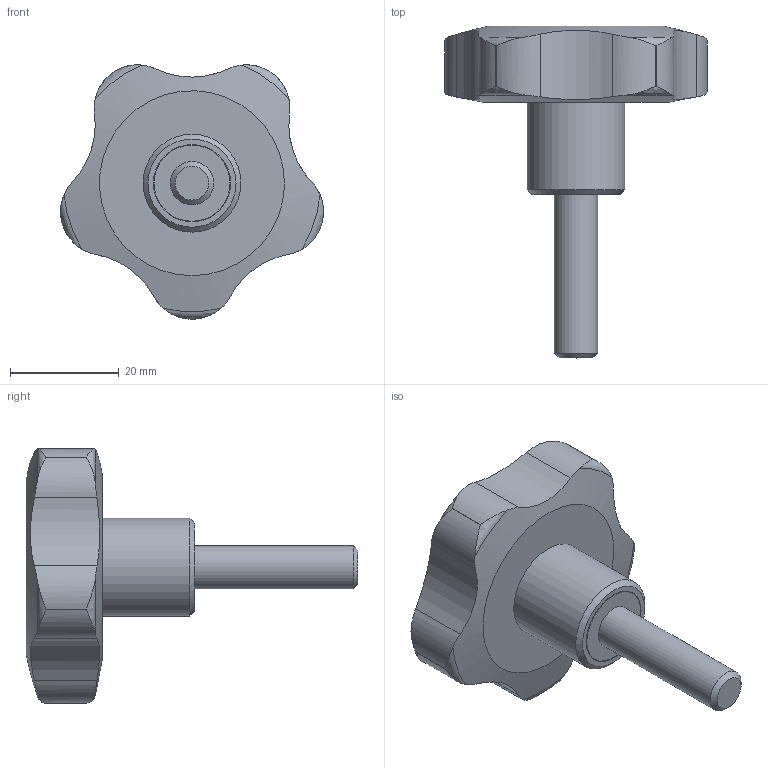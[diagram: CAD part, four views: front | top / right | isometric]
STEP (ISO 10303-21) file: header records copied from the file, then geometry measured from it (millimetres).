
FILE_DESCRIPTION( ( 'STEP AP203' ), '1' );
FILE_NAME( 'C:/Temp/Ganter_Step_05_03_2020/data/2_2/gn_5337_4/gn_5337_4_s/Star knob GN 5337.4-50-M8-30.stp', '2020-03-05T12:09:48', ( 'License CC BY-ND 4.0' ), ( 'CADENAS' ), ' ', 'PARTsolutions', ' ' );
FILE_SCHEMA( ( 'CONFIG_CONTROL_DESIGN' ) );
Length unit declared in the file: millimetre
Products named in the file (1): _Star knob GN 5337.4-50-M8-30
Bounding box: 48.33 x 61 x 46.75 mm (x, y, z)
Volume: 26043.3 mm3; surface area: 6560.2 mm2
Topology: 1 solids, 1 shells, 44 faces, 115 edges, 76 vertices
Faces by surface type: cylinder 24, torus 10, plane 5, cone 3, bspline 1, sphere 1
Full cylindrical faces by diameter (mm): 8 x1, 14 x1, 14.2 x1, 18 x1
Entity records: 1975 total; most frequent: CARTESIAN_POINT 974, ORIENTED_EDGE 204, DIRECTION 172, EDGE_CURVE 102, AXIS2_PLACEMENT_3D 76, VERTEX_POINT 74, EDGE_LOOP 56, B_SPLINE_CURVE_WITH_KNOTS 50
